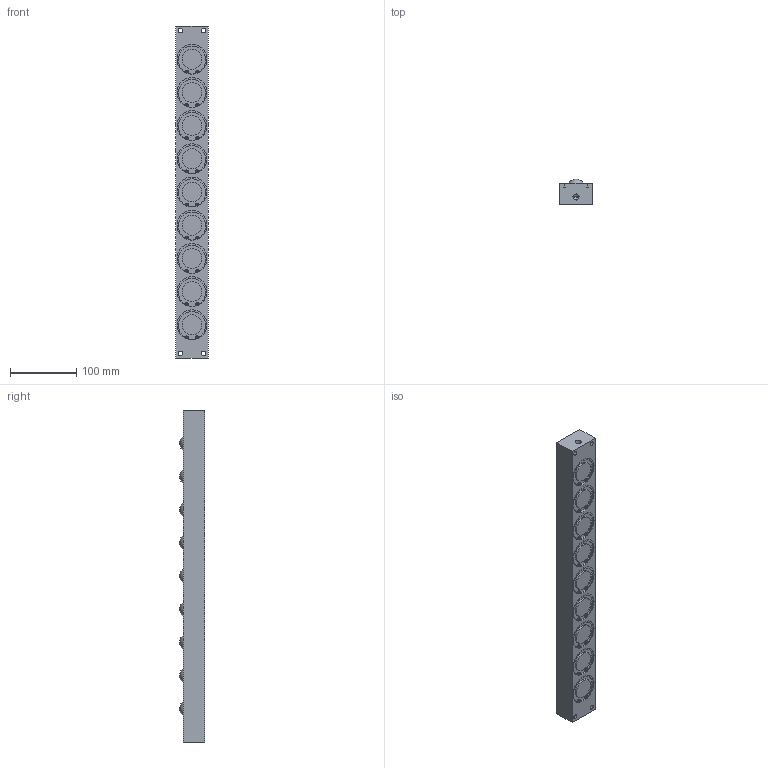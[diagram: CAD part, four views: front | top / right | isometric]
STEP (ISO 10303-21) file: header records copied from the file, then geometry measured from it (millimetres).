
FILE_DESCRIPTION (( 'STEP AP203' ), '1' );
FILE_NAME ('PVL55SL-9.STEP', '2016-01-06T00:36:29', ( '' ), ( '' ), 'SwSTEP 2.0', 'SolidWorks 2013', '' );
FILE_SCHEMA (( 'CONFIG_CONTROL_DESIGN' ));
Length unit declared in the file: millimetre
Products named in the file (1): PVL55SL-9
Bounding box: 49 x 38 x 500 mm (x, y, z)
Volume: 770350.4 mm3; surface area: 110784.9 mm2
Topology: 1 solids, 1 shells, 384 faces, 949 edges, 634 vertices
Faces by surface type: cylinder 252, plane 110, sphere 18, cone 4
Entity records: 11806 total; most frequent: DIRECTION 2315, CARTESIAN_POINT 1966, ORIENTED_EDGE 1894, AXIS2_PLACEMENT_3D 983, EDGE_CURVE 947, VERTEX_POINT 634, CIRCLE 598, EDGE_LOOP 461
